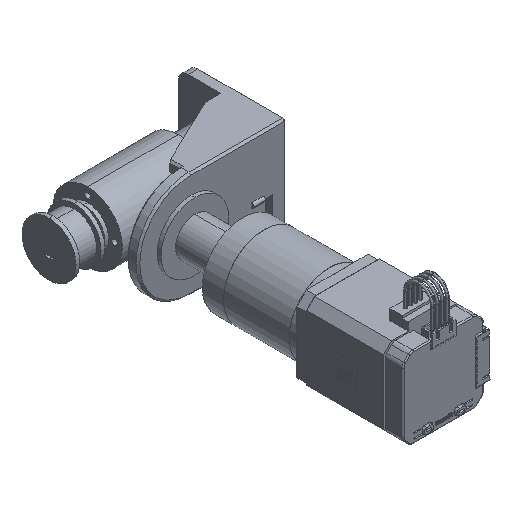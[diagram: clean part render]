
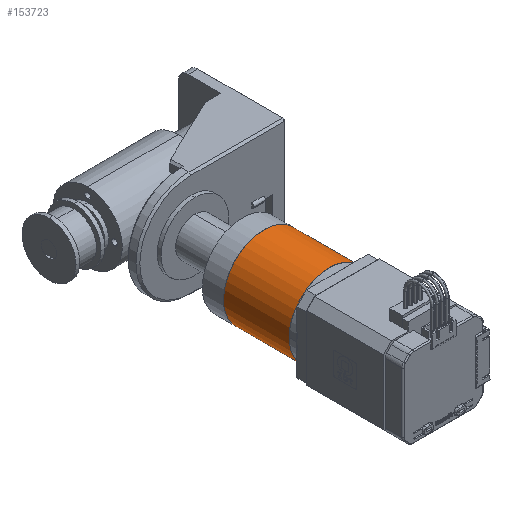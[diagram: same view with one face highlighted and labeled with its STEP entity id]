
A CAD part, isometric view. The second image highlights one B-rep face of the part: STEP entity #153723.
In plain terms, the highlighted cylindrical face has radius 21 mm (diameter 42 mm), a partial arc.
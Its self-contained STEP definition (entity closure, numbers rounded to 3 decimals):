
#153605 = EDGE_CURVE('',#153606,#153608,#153610,.T.);
#153606 = VERTEX_POINT('',#153607);
#153607 = CARTESIAN_POINT('',(-21.,0.,0.));
#153608 = VERTEX_POINT('',#153609);
#153609 = CARTESIAN_POINT('',(21.,0.,0.));
#153610 = SURFACE_CURVE('',#153611,(#153616,#153628),.PCURVE_S1.);
#153611 = CIRCLE('',#153612,21.);
#153612 = AXIS2_PLACEMENT_3D('',#153613,#153614,#153615);
#153613 = CARTESIAN_POINT('',(0.,0.,0.));
#153614 = DIRECTION('',(0.,0.,1.));
#153615 = DIRECTION('',(1.,0.,-0.));
#153616 = PCURVE('',#153617,#153622);
#153617 = PLANE('',#153618);
#153618 = AXIS2_PLACEMENT_3D('',#153619,#153620,#153621);
#153619 = CARTESIAN_POINT('',(0.,0.,0.));
#153620 = DIRECTION('',(0.,0.,1.));
#153621 = DIRECTION('',(1.,0.,-0.));
#153622 = DEFINITIONAL_REPRESENTATION('',(#153623),#153627);
#153623 = CIRCLE('',#153624,21.);
#153624 = AXIS2_PLACEMENT_2D('',#153625,#153626);
#153625 = CARTESIAN_POINT('',(0.,0.));
#153626 = DIRECTION('',(1.,0.));
#153627 = ( GEOMETRIC_REPRESENTATION_CONTEXT(2) 
PARAMETRIC_REPRESENTATION_CONTEXT() REPRESENTATION_CONTEXT('2D SPACE',''
  ) );
#153628 = PCURVE('',#153629,#153634);
#153629 = CYLINDRICAL_SURFACE('',#153630,21.);
#153630 = AXIS2_PLACEMENT_3D('',#153631,#153632,#153633);
#153631 = CARTESIAN_POINT('',(0.,0.,34.));
#153632 = DIRECTION('',(0.,0.,-1.));
#153633 = DIRECTION('',(-1.,0.,0.));
#153634 = DEFINITIONAL_REPRESENTATION('',(#153635),#153639);
#153635 = LINE('',#153636,#153637);
#153636 = CARTESIAN_POINT('',(9.425,34.));
#153637 = VECTOR('',#153638,1.);
#153638 = DIRECTION('',(-1.,0.));
#153639 = ( GEOMETRIC_REPRESENTATION_CONTEXT(2) 
PARAMETRIC_REPRESENTATION_CONTEXT() REPRESENTATION_CONTEXT('2D SPACE',''
  ) );
#153656 = CYLINDRICAL_SURFACE('',#153657,21.);
#153657 = AXIS2_PLACEMENT_3D('',#153658,#153659,#153660);
#153658 = CARTESIAN_POINT('',(0.,0.,34.));
#153659 = DIRECTION('',(0.,0.,-1.));
#153660 = DIRECTION('',(-1.,0.,0.));
#153671 = EDGE_CURVE('',#153672,#153674,#153676,.T.);
#153672 = VERTEX_POINT('',#153673);
#153673 = CARTESIAN_POINT('',(-21.,0.,34.));
#153674 = VERTEX_POINT('',#153675);
#153675 = CARTESIAN_POINT('',(21.,0.,34.));
#153676 = SURFACE_CURVE('',#153677,(#153682,#153694),.PCURVE_S1.);
#153677 = CIRCLE('',#153678,21.);
#153678 = AXIS2_PLACEMENT_3D('',#153679,#153680,#153681);
#153679 = CARTESIAN_POINT('',(0.,0.,34.));
#153680 = DIRECTION('',(0.,0.,1.));
#153681 = DIRECTION('',(1.,0.,-0.));
#153682 = PCURVE('',#153683,#153688);
#153683 = PLANE('',#153684);
#153684 = AXIS2_PLACEMENT_3D('',#153685,#153686,#153687);
#153685 = CARTESIAN_POINT('',(0.,0.,34.));
#153686 = DIRECTION('',(0.,0.,1.));
#153687 = DIRECTION('',(1.,0.,-0.));
#153688 = DEFINITIONAL_REPRESENTATION('',(#153689),#153693);
#153689 = CIRCLE('',#153690,21.);
#153690 = AXIS2_PLACEMENT_2D('',#153691,#153692);
#153691 = CARTESIAN_POINT('',(0.,0.));
#153692 = DIRECTION('',(1.,0.));
#153693 = ( GEOMETRIC_REPRESENTATION_CONTEXT(2) 
PARAMETRIC_REPRESENTATION_CONTEXT() REPRESENTATION_CONTEXT('2D SPACE',''
  ) );
#153694 = PCURVE('',#153629,#153695);
#153695 = DEFINITIONAL_REPRESENTATION('',(#153696),#153700);
#153696 = LINE('',#153697,#153698);
#153697 = CARTESIAN_POINT('',(9.425,0.));
#153698 = VECTOR('',#153699,1.);
#153699 = DIRECTION('',(-1.,0.));
#153700 = ( GEOMETRIC_REPRESENTATION_CONTEXT(2) 
PARAMETRIC_REPRESENTATION_CONTEXT() REPRESENTATION_CONTEXT('2D SPACE',''
  ) );
#153723 = ADVANCED_FACE('',(#153724),#153629,.T.);
#153724 = FACE_BOUND('',#153725,.T.);
#153725 = EDGE_LOOP('',(#153726,#153747,#153748,#153769));
#153726 = ORIENTED_EDGE('',*,*,#153727,.F.);
#153727 = EDGE_CURVE('',#153674,#153608,#153728,.T.);
#153728 = SURFACE_CURVE('',#153729,(#153733,#153740),.PCURVE_S1.);
#153729 = LINE('',#153730,#153731);
#153730 = CARTESIAN_POINT('',(21.,0.,34.));
#153731 = VECTOR('',#153732,1.);
#153732 = DIRECTION('',(0.,0.,-1.));
#153733 = PCURVE('',#153629,#153734);
#153734 = DEFINITIONAL_REPRESENTATION('',(#153735),#153739);
#153735 = LINE('',#153736,#153737);
#153736 = CARTESIAN_POINT('',(3.142,0.));
#153737 = VECTOR('',#153738,1.);
#153738 = DIRECTION('',(0.,1.));
#153739 = ( GEOMETRIC_REPRESENTATION_CONTEXT(2) 
PARAMETRIC_REPRESENTATION_CONTEXT() REPRESENTATION_CONTEXT('2D SPACE',''
  ) );
#153740 = PCURVE('',#153656,#153741);
#153741 = DEFINITIONAL_REPRESENTATION('',(#153742),#153746);
#153742 = LINE('',#153743,#153744);
#153743 = CARTESIAN_POINT('',(3.142,0.));
#153744 = VECTOR('',#153745,1.);
#153745 = DIRECTION('',(0.,1.));
#153746 = ( GEOMETRIC_REPRESENTATION_CONTEXT(2) 
PARAMETRIC_REPRESENTATION_CONTEXT() REPRESENTATION_CONTEXT('2D SPACE',''
  ) );
#153747 = ORIENTED_EDGE('',*,*,#153671,.F.);
#153748 = ORIENTED_EDGE('',*,*,#153749,.T.);
#153749 = EDGE_CURVE('',#153672,#153606,#153750,.T.);
#153750 = SURFACE_CURVE('',#153751,(#153755,#153762),.PCURVE_S1.);
#153751 = LINE('',#153752,#153753);
#153752 = CARTESIAN_POINT('',(-21.,0.,34.));
#153753 = VECTOR('',#153754,1.);
#153754 = DIRECTION('',(0.,0.,-1.));
#153755 = PCURVE('',#153629,#153756);
#153756 = DEFINITIONAL_REPRESENTATION('',(#153757),#153761);
#153757 = LINE('',#153758,#153759);
#153758 = CARTESIAN_POINT('',(6.283,0.));
#153759 = VECTOR('',#153760,1.);
#153760 = DIRECTION('',(0.,1.));
#153761 = ( GEOMETRIC_REPRESENTATION_CONTEXT(2) 
PARAMETRIC_REPRESENTATION_CONTEXT() REPRESENTATION_CONTEXT('2D SPACE',''
  ) );
#153762 = PCURVE('',#153656,#153763);
#153763 = DEFINITIONAL_REPRESENTATION('',(#153764),#153768);
#153764 = LINE('',#153765,#153766);
#153765 = CARTESIAN_POINT('',(0.,0.));
#153766 = VECTOR('',#153767,1.);
#153767 = DIRECTION('',(0.,1.));
#153768 = ( GEOMETRIC_REPRESENTATION_CONTEXT(2) 
PARAMETRIC_REPRESENTATION_CONTEXT() REPRESENTATION_CONTEXT('2D SPACE',''
  ) );
#153769 = ORIENTED_EDGE('',*,*,#153605,.T.);
